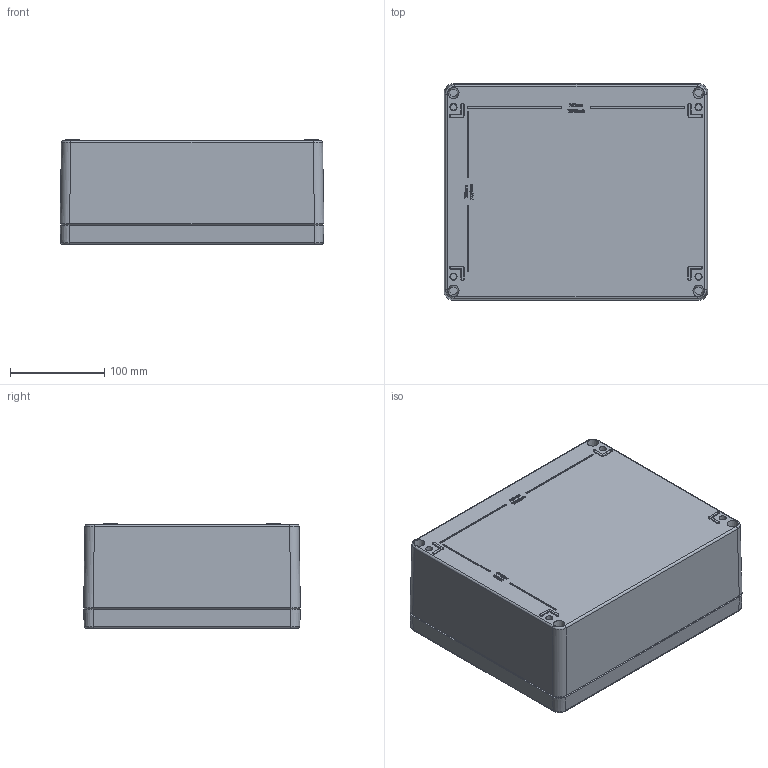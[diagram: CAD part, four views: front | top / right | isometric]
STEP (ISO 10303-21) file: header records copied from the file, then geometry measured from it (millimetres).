
FILE_DESCRIPTION(/* description */ (''),/* implementation_level */ '2;1');
FILE_NAME(/* name */ '1590Z233.stp',/* time_stamp */ '2025-11-27T14:25:35-05:00',/* author */ ('mbeerman'),/* organization */ (''),/* preprocessor_version */ 'ST-DEVELOPER v20.1',/* originating_system */ 'Autodesk Inventor 2026',/* authorisation */ '');
FILE_SCHEMA (('AUTOMOTIVE_DESIGN { 1 0 10303 214 3 1 1 }'));
Products named in the file (5): 1590Z...3; 1590Z233 box; cover 230280111; 1590Z...3 GASKET; (screw M6-1X 28mm PN)
Assembly tree (7 placements, depth 2):
  1590Z...3
    1590Z233 box
    cover 230280111
    1590Z...3 GASKET
    (screw M6-1X 28mm PN)  x4
Bounding box: 280 x 230 x 111 mm (x, y, z)
Volume: 1180349.6 mm3; surface area: 500609.4 mm2
Topology: 7 solids, 7 shells, 1466 faces, 3536 edges, 2243 vertices
Faces by surface type: plane 642, cylinder 294, bspline 271, cone 163, torus 81, sphere 15
Full cylindrical faces by diameter (mm): 4.917 x10, 5 x1, 5.008 x1, 5.28 x4, 5.32 x4, 5.589 x1, 5.644 x6, 5.88 x4, 6 x4, 7.4 x1, 8 x1
Entity records: 61650 total; most frequent: CARTESIAN_POINT 31075, ORIENTED_EDGE 6506, DIRECTION 5793, EDGE_CURVE 3253, VERTEX_POINT 2057, AXIS2_PLACEMENT_3D 1998, LINE 1797, VECTOR 1797
